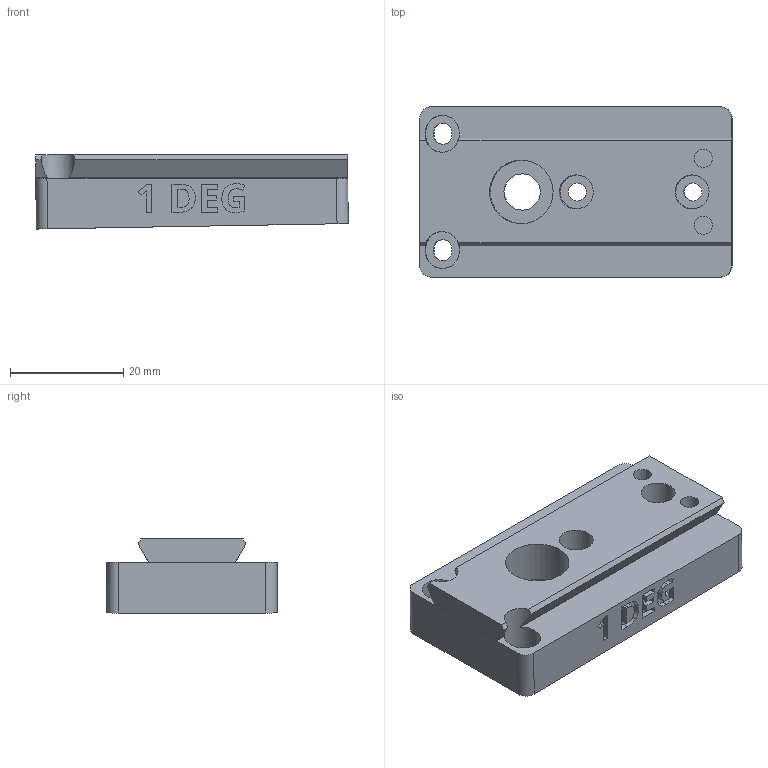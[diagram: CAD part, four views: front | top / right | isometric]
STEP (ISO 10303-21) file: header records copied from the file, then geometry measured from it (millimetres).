
FILE_DESCRIPTION(/* description */ ('STEP AP242 Edition 2','CAx-IF Rec.Pracs.---Representation and Presentation of Product Manufacturing Information (PMI)---4.0---2014-10-13','CAx-IF Rec.Pracs.---3D Tessellated Geometry---0.4---2014-09-14','2;1','CAx-IF Rec.Pracs.---User Defined Attributes---1.5---2016-08-15'),/* implementation_level */ '2;1');
FILE_NAME(/* name */ 'Camera Wedges - CAMERA MOUNTING WEDGE, POS, 1 DEG',/* time_stamp */ '2026-07-08T20:37:25Z',/* author */ (''),/* organization */ (''),/* preprocessor_version */ 'ST-DEVELOPER v20',/* originating_system */ 'ONSHAPE BY PTC INC, 1.217',/* authorisation */ ' ');
FILE_SCHEMA (('AP242_MANAGED_MODEL_BASED_3D_ENGINEERING_MIM_LF { 1 0 10303 442 3 1 4 }'));
Length unit declared in the file: metre
Products named in the file (1): CAMERA MOUNTING WEDGE, POS, 1 DEG
Bounding box: 55.15 x 30 x 13.06 mm (x, y, z)
Volume: 15001.3 mm3; surface area: 6792.4 mm2
Topology: 1 solids, 1 shells, 194 faces, 527 edges, 351 vertices
Faces by surface type: plane 128, cylinder 36, bspline 30
Full cylindrical faces by diameter (mm): 3.2 x4, 6 x2, 6.4 x1, 11.2 x1
Entity records: 6162 total; most frequent: CARTESIAN_POINT 1389, ORIENTED_EDGE 1032, DIRECTION 870, EDGE_CURVE 516, LINE 372, VECTOR 372, VERTEX_POINT 348, AXIS2_PLACEMENT_3D 249
